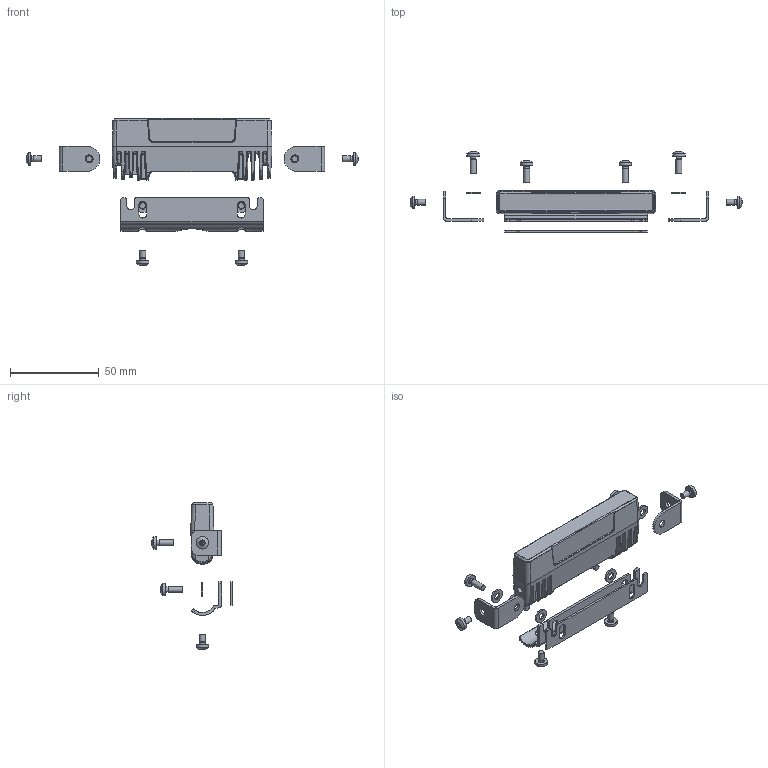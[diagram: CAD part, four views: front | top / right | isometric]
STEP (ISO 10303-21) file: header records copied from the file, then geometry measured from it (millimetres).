
FILE_DESCRIPTION(/* description */ (''),/* implementation_level */ '2;1');
FILE_NAME(/* name */ 'C:/LED-MARTIN_NP6_mit_Halter.step',/* time_stamp */ '2021-03-05T10:32:13+01:00',/* author */ (''),/* organization */ (''),/* preprocessor_version */ 'ST-DEVELOPER v18.1',/* originating_system */ 'Autodesk Translation Framework v9.10.0.1330',/* authorisation */ '');
FILE_SCHEMA (('AUTOMOTIVE_DESIGN { 1 0 10303 214 3 1 1 }'));
Products named in the file (1): (Nicht gespeichert)
Bounding box: 186.93 x 45.4 x 82.86 mm (x, y, z)
Volume: 24002.9 mm3; surface area: 28974.3 mm2
Topology: 18 solids, 18 shells, 1305 faces, 3020 edges, 1690 vertices
Faces by surface type: plane 488, cylinder 364, bspline 362, sphere 44, torus 27, cone 20
Full cylindrical faces by diameter (mm): 2 x1, 3.082 x8, 3.291 x8, 3.5 x4, 4 x4, 4.4 x4, 7.04 x8, 8 x4
Entity records: 49023 total; most frequent: CARTESIAN_POINT 21191, ORIENTED_EDGE 5888, DIRECTION 5777, EDGE_CURVE 2944, AXIS2_PLACEMENT_3D 2263, VERTEX_POINT 1690, EDGE_LOOP 1354, FACE_OUTER_BOUND 1305
